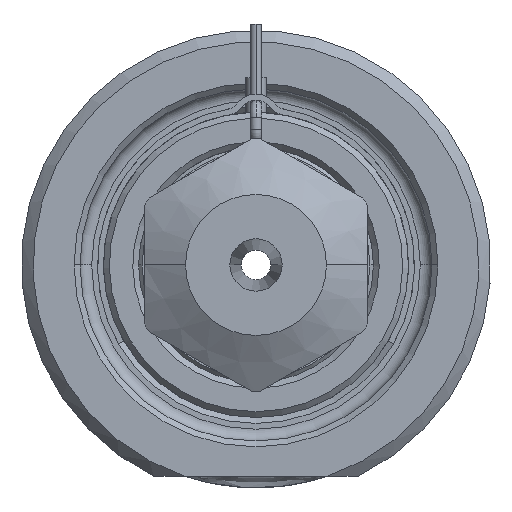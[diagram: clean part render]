
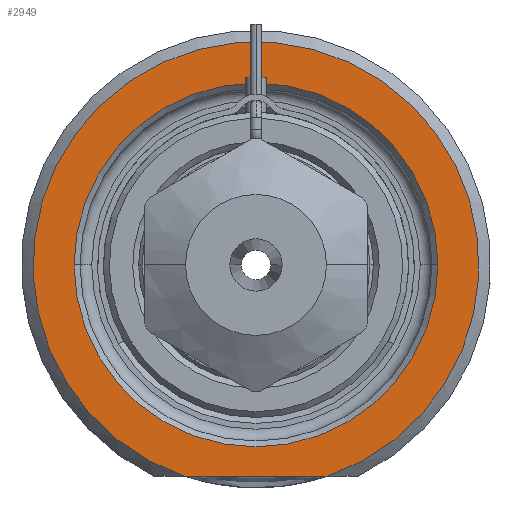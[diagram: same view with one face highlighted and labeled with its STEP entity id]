
A CAD part, front view. The second image highlights one B-rep face of the part: STEP entity #2949.
In plain terms, the highlighted planar face has unit normal (0, -1, 0).
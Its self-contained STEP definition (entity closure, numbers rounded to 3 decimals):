
#1=DIRECTION('',(1.,0.,0.));
#2=VECTOR('',#1,12.166);
#3=CARTESIAN_POINT('',(-6.083,0.,-18.));
#4=LINE('',#3,#2);
#5=CARTESIAN_POINT('',(0.,0.,0.));
#6=DIRECTION('',(0.,1.,0.));
#7=DIRECTION('',(-1.,0.,0.));
#8=AXIS2_PLACEMENT_3D('',#5,#6,#7);
#10=CARTESIAN_POINT('',(0.,0.,0.));
#11=DIRECTION('',(0.,1.,0.));
#12=DIRECTION('',(1.,0.,0.));
#13=AXIS2_PLACEMENT_3D('',#10,#11,#12);
#264=CARTESIAN_POINT('',(0.,0.,0.));
#265=DIRECTION('',(0.,-1.,0.));
#266=DIRECTION('',(0.32,0.,-0.947));
#267=AXIS2_PLACEMENT_3D('',#264,#265,#266);
#2476=CARTESIAN_POINT('',(-15.5,0.,0.));
#2477=CARTESIAN_POINT('',(15.5,0.,0.));
#2478=VERTEX_POINT('',#2476);
#2479=VERTEX_POINT('',#2477);
#2534=CARTESIAN_POINT('',(-6.083,0.,-18.));
#2535=CARTESIAN_POINT('',(6.083,0.,-18.));
#2536=VERTEX_POINT('',#2534);
#2537=VERTEX_POINT('',#2535);
#2932=CARTESIAN_POINT('',(0.,0.,0.));
#2933=DIRECTION('',(0.,-1.,0.));
#2934=DIRECTION('',(1.,0.,0.));
#2935=AXIS2_PLACEMENT_3D('',#2932,#2933,#2934);
#2936=PLANE('',#2935);
#2938=ORIENTED_EDGE('',*,*,#2937,.F.);
#2940=ORIENTED_EDGE('',*,*,#2939,.F.);
#2941=EDGE_LOOP('',(#2938,#2940));
#2942=FACE_OUTER_BOUND('',#2941,.F.);
#2944=ORIENTED_EDGE('',*,*,#2943,.F.);
#2946=ORIENTED_EDGE('',*,*,#2945,.F.);
#2947=EDGE_LOOP('',(#2944,#2946));
#2948=FACE_BOUND('',#2947,.F.);
#2949=ADVANCED_FACE('',(#2942,#2948),#2936,.T.);
#9=CIRCLE('',#8,15.5);
#14=CIRCLE('',#13,15.5);
#268=CIRCLE('',#267,19.);
#2937=EDGE_CURVE('',#2536,#2537,#4,.T.);
#2939=EDGE_CURVE('',#2537,#2536,#268,.T.);
#2943=EDGE_CURVE('',#2478,#2479,#9,.T.);
#2945=EDGE_CURVE('',#2479,#2478,#14,.T.);
